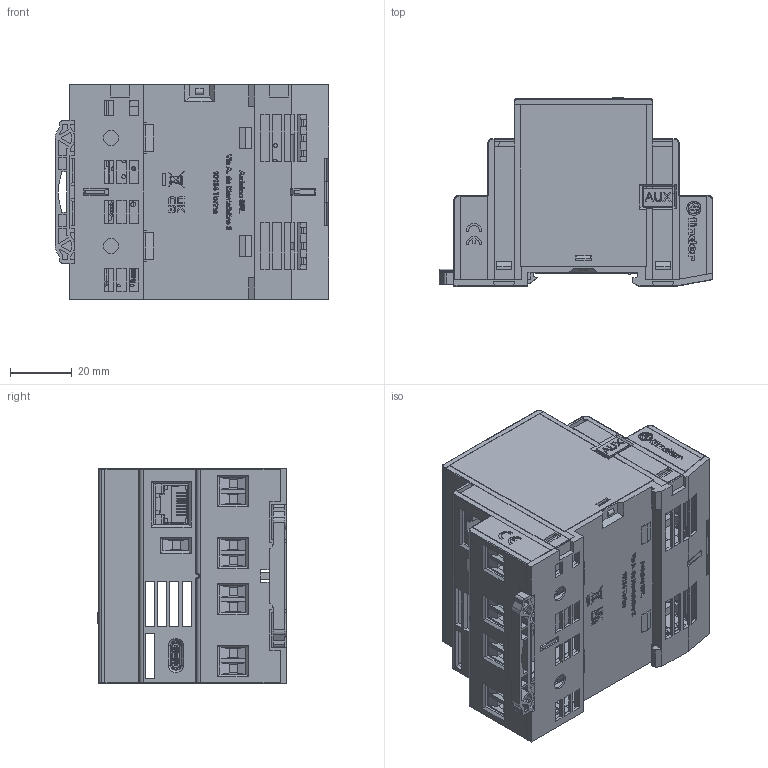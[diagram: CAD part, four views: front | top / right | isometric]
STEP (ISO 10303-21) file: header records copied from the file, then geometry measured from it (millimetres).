
FILE_DESCRIPTION(/* description */ ('Unknown'),/* implementation_level */ '2;1');
FILE_NAME(/* name */ 'AFX00003-step',/* time_stamp */ '2023-07-14T09:14:44+02:00',/* author */ ('Unknown'),/* organization */ ('Unknown'),/* preprocessor_version */ 'ST-DEVELOPER v18.102',/* originating_system */ 'Solid Edge',/* authorisation */ 'Unknown');
FILE_SCHEMA (('AUTOMOTIVE_DESIGN {1 0 10303 214 3 1 1}'));
Products named in the file (1): 8A04_8300 ARDUINO
Bounding box: 88.85 x 61.15 x 70 mm (x, y, z)
Surface area: 56935.3 mm2 (no closed solid volume)
Topology: 0 solids, 161 shells, 4841 faces, 15447 edges, 10871 vertices
Faces by surface type: plane 4288, cylinder 423, bspline 55, torus 39, cone 36
Full cylindrical faces by diameter (mm): 0.407 x1, 2.2 x1, 2.6 x26, 2.85 x26, 3 x4, 3.8 x26, 4 x1, 4.5 x1, 5 x2
Entity records: 175140 total; most frequent: CARTESIAN_POINT 33695, ORIENTED_EDGE 27084, DIRECTION 26092, EDGE_CURVE 15244, LINE 13684, VECTOR 13684, VERTEX_POINT 10786, AXIS2_PLACEMENT_3D 6204
